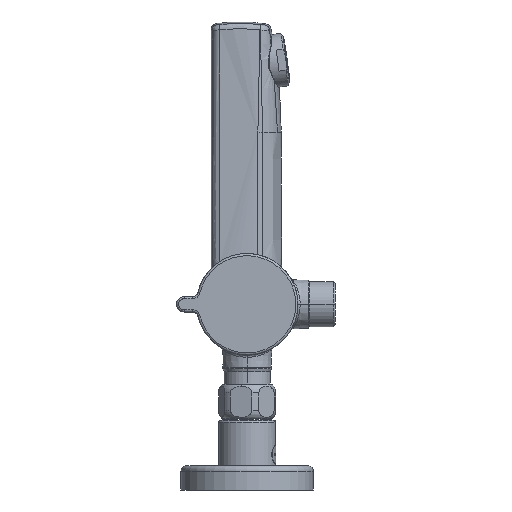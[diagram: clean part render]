
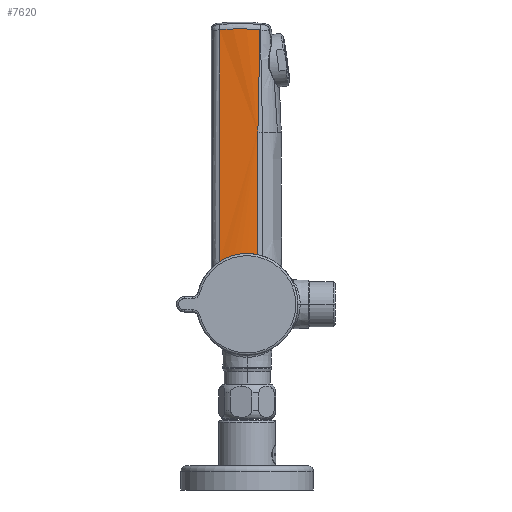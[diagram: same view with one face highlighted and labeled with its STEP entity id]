
A CAD part, left-side view. The second image highlights one B-rep face of the part: STEP entity #7620.
In plain terms, the highlighted conical face has half-angle 0.2 degrees and reference radius 59.28 mm.
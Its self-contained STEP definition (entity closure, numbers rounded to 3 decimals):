
#1081=CARTESIAN_POINT('',(-15.536,12.355,19.4));
#1082=CARTESIAN_POINT('',(-15.577,12.086,19.571));
#1083=CARTESIAN_POINT('',(-15.654,11.542,19.902));
#1084=CARTESIAN_POINT('',(-15.761,10.711,20.361));
#1085=CARTESIAN_POINT('',(-15.857,9.865,20.784));
#1086=CARTESIAN_POINT('',(-15.943,9.006,21.171));
#1087=CARTESIAN_POINT('',(-16.017,8.136,21.52));
#1088=CARTESIAN_POINT('',(-16.078,7.256,21.832));
#1089=CARTESIAN_POINT('',(-16.128,6.369,22.107));
#1090=CARTESIAN_POINT('',(-16.164,5.473,22.346));
#1091=CARTESIAN_POINT('',(-16.187,4.571,22.547));
#1092=CARTESIAN_POINT('',(-16.197,3.665,22.712));
#1093=CARTESIAN_POINT('',(-16.193,2.754,22.841));
#1094=CARTESIAN_POINT('',(-16.174,1.837,22.933));
#1095=CARTESIAN_POINT('',(-16.142,0.918,
22.988));
#1096=CARTESIAN_POINT('',(-16.111,0.306,23.));
#1097=CARTESIAN_POINT('',(-16.093,0.,23.));
#1378=CARTESIAN_POINT('',(-16.093,0.,23.));
#1379=CARTESIAN_POINT('',(-16.078,-0.271,23.));
#1380=CARTESIAN_POINT('',(-16.042,-0.813,
22.99));
#1381=CARTESIAN_POINT('',(-15.978,-1.628,
22.947));
#1382=CARTESIAN_POINT('',(-15.903,-2.441,
22.875));
#1383=CARTESIAN_POINT('',(-15.817,-3.253,22.774));
#1384=CARTESIAN_POINT('',(-15.72,-4.064,
22.643));
#1385=CARTESIAN_POINT('',(-15.648,-4.602,
22.537));
#1386=CARTESIAN_POINT('',(-15.61,-4.87,
22.478));
#1748=CARTESIAN_POINT('',(-15.16,12.393,124.272));
#1749=CARTESIAN_POINT('',(-15.202,12.388,112.622));
#1750=CARTESIAN_POINT('',(-15.286,12.38,89.32));
#1751=CARTESIAN_POINT('',(-15.411,12.367,54.362));
#1752=CARTESIAN_POINT('',(-15.495,12.359,31.055));
#1753=CARTESIAN_POINT('',(-15.536,12.355,19.4));
#1755=CARTESIAN_POINT('',(-15.16,12.393,124.272));
#1756=CARTESIAN_POINT('',(-15.244,11.844,124.331));
#1757=CARTESIAN_POINT('',(-15.396,10.745,124.438));
#1758=CARTESIAN_POINT('',(-15.577,9.093,124.565));
#1759=CARTESIAN_POINT('',(-15.712,7.439,124.66));
#1760=CARTESIAN_POINT('',(-15.801,5.783,124.722));
#1761=CARTESIAN_POINT('',(-15.843,4.125,124.752));
#1762=CARTESIAN_POINT('',(-15.838,2.467,124.749));
#1763=CARTESIAN_POINT('',(-15.787,0.81,
124.713));
#1764=CARTESIAN_POINT('',(-15.69,-0.846,
124.645));
#1765=CARTESIAN_POINT('',(-15.547,-2.5,
124.545));
#1766=CARTESIAN_POINT('',(-15.356,-4.151,
124.412));
#1767=CARTESIAN_POINT('',(-15.199,-5.249,
124.301));
#1768=CARTESIAN_POINT('',(-15.112,-5.798,
124.24));
#1770=CARTESIAN_POINT('',(-15.417,-4.851,
78.03));
#1771=CARTESIAN_POINT('',(-15.385,-4.954,
82.861));
#1772=CARTESIAN_POINT('',(-15.318,-5.179,
92.73));
#1773=CARTESIAN_POINT('',(-15.211,-5.517,
108.524));
#1774=CARTESIAN_POINT('',(-15.145,-5.706,
118.973));
#1775=CARTESIAN_POINT('',(-15.112,-5.798,
124.24));
#1777=CARTESIAN_POINT('',(-15.61,-4.87,
22.478));
#1778=CARTESIAN_POINT('',(-15.586,-4.862,
29.512));
#1779=CARTESIAN_POINT('',(-15.541,-4.85,
43.006));
#1780=CARTESIAN_POINT('',(-15.48,-4.817,
61.541));
#1781=CARTESIAN_POINT('',(-15.438,-4.834,
72.727));
#1782=CARTESIAN_POINT('',(-15.417,-4.851,
78.03));
#1806=CARTESIAN_POINT('',(-15.16,12.393,124.272));
#2238=CARTESIAN_POINT('',(-15.417,-4.851,
78.03));
#6296=VERTEX_POINT('',#2238);
#6316=VERTEX_POINT('',#1806);
#6317=VERTEX_POINT('',#1768);
#6343=VERTEX_POINT('',#1081);
#6344=VERTEX_POINT('',#1097);
#6347=VERTEX_POINT('',#1386);
#7603=CARTESIAN_POINT('',(43.257,3.454,72.075));
#7604=DIRECTION('',(0.,0.,-1.));
#7605=DIRECTION('',(-1.,0.,0.));
#7606=AXIS2_PLACEMENT_3D('',#7603,#7604,#7605);
#7607=CONICAL_SURFACE('',#7606,59.28,0.2);
#7608=ORIENTED_EDGE('',*,*,#7479,.F.);
#7610=ORIENTED_EDGE('',*,*,#7609,.F.);
#7612=ORIENTED_EDGE('',*,*,#7611,.T.);
#7614=ORIENTED_EDGE('',*,*,#7613,.F.);
#7616=ORIENTED_EDGE('',*,*,#7615,.F.);
#7617=ORIENTED_EDGE('',*,*,#7573,.F.);
#7618=EDGE_LOOP('',(#7608,#7610,#7612,#7614,#7616,#7617));
#7619=FACE_OUTER_BOUND('',#7618,.F.);
#7620=ADVANCED_FACE('',(#7619),#7607,.T.);
#1098=B_SPLINE_CURVE_WITH_KNOTS('',3,(#1081,#1082,#1083,#1084,#1085,#1086,#1087,
#1088,#1089,#1090,#1091,#1092,#1093,#1094,#1095,#1096,#1097),.UNSPECIFIED.,.F.,
.F.,(4,1,1,1,1,1,1,1,1,1,1,1,1,1,4),(0.,0.071,0.143,
0.214,0.286,0.357,0.429,0.5,
0.571,0.643,0.714,0.786,
0.857,0.929,1.),.UNSPECIFIED.);
#1387=B_SPLINE_CURVE_WITH_KNOTS('',3,(#1378,#1379,#1380,#1381,#1382,#1383,#1384,
#1385,#1386),.UNSPECIFIED.,.F.,.F.,(4,1,1,1,1,1,4),(0.,0.167,
0.333,0.5,0.667,0.833,1.),
.UNSPECIFIED.);
#1754=B_SPLINE_CURVE_WITH_KNOTS('',3,(#1748,#1749,#1750,#1751,#1752,#1753),
.UNSPECIFIED.,.F.,.F.,(4,1,1,4),(0.,0.333,0.667,1.),
.UNSPECIFIED.);
#1769=B_SPLINE_CURVE_WITH_KNOTS('',3,(#1755,#1756,#1757,#1758,#1759,#1760,#1761,
#1762,#1763,#1764,#1765,#1766,#1767,#1768),.UNSPECIFIED.,.F.,.F.,(4,1,1,1,1,1,1,
1,1,1,1,4),(0.,0.091,0.182,0.273,
0.364,0.455,0.545,0.636,
0.727,0.818,0.909,1.),.UNSPECIFIED.);
#1776=B_SPLINE_CURVE_WITH_KNOTS('',3,(#1770,#1771,#1772,#1773,#1774,#1775),
.UNSPECIFIED.,.F.,.F.,(4,1,1,4),(0.,0.333,0.667,1.),
.UNSPECIFIED.);
#1783=B_SPLINE_CURVE_WITH_KNOTS('',3,(#1777,#1778,#1779,#1780,#1781,#1782),
.UNSPECIFIED.,.F.,.F.,(4,1,1,4),(0.,0.333,0.667,1.),
.UNSPECIFIED.);
#7479=EDGE_CURVE('',#6343,#6344,#1098,.T.);
#7573=EDGE_CURVE('',#6344,#6347,#1387,.T.);
#7609=EDGE_CURVE('',#6316,#6343,#1754,.T.);
#7611=EDGE_CURVE('',#6316,#6317,#1769,.T.);
#7613=EDGE_CURVE('',#6296,#6317,#1776,.T.);
#7615=EDGE_CURVE('',#6347,#6296,#1783,.T.);
